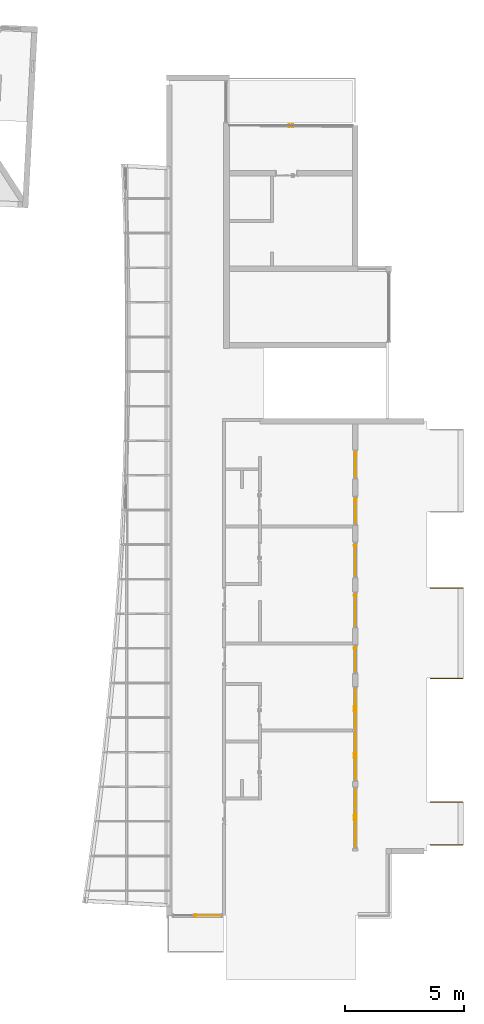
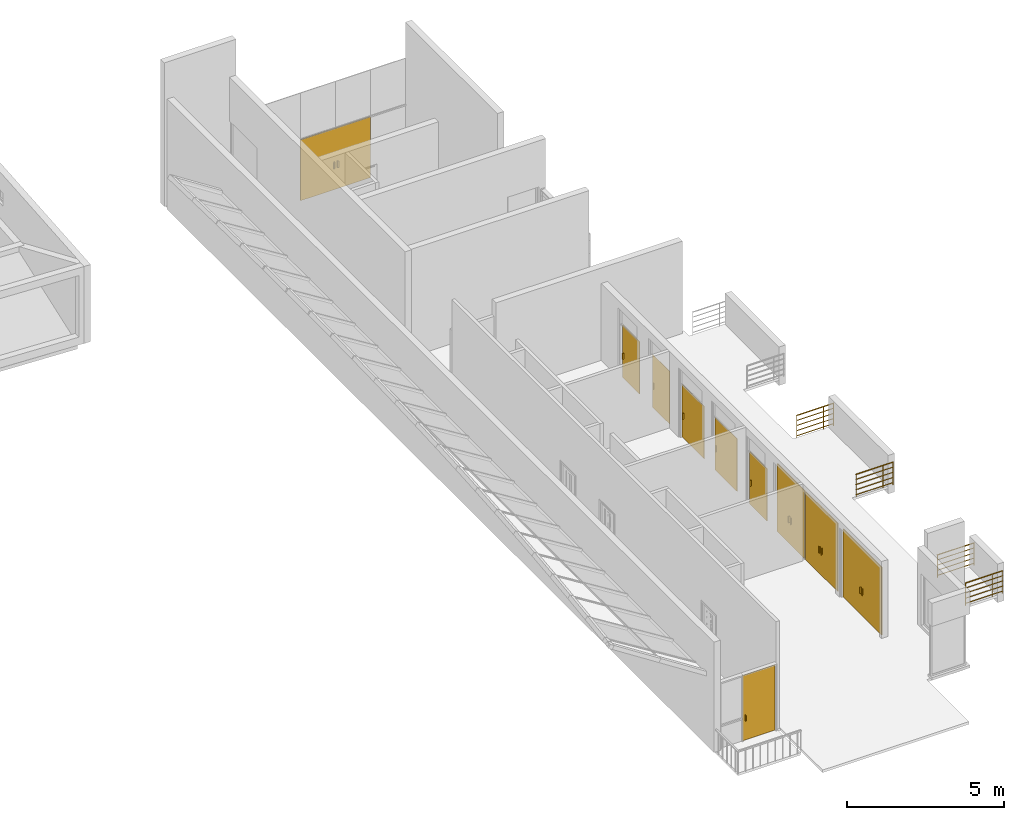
# One storey, part 30 of 33: 10 doors, 4 railings, 9 elements without a shape of their own.
"""IFC2X3 building model written with IfcOpenShell, lengths in millimetres."""

from ifc_helpers import new_model, entity, si_unit, converted_unit, derived_unit, direction, frame, frame_2d, origin, origin_2d_with_axis, place, context, subcontext, project, spatial, polyline, rectangle, circle, outline, extrude, source, transform, mapped, material, material_list, type_object, type_shapes, element, aggregate, save


model = new_model("IFC2X3")

# Units and contexts
model_context = context("Model", 3, precision=0.01, world=origin(), true_north=direction((6.12303176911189e-17, 1.0)))
body_context = subcontext(model_context, "Body", "Model", "MODEL_VIEW")
ifc_project = project(units=[si_unit("LENGTHUNIT", "METRE", prefix="MILLI"), si_unit("AREAUNIT", "SQUARE_METRE"), si_unit("VOLUMEUNIT", "CUBIC_METRE"), converted_unit("PLANEANGLEUNIT", "DEGREE", entity("IfcRatioMeasure", 0.0174532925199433), si_unit("PLANEANGLEUNIT", "RADIAN"), dimensions=[0, 0, 0, 0, 0, 0, 0]), si_unit("MASSUNIT", "GRAM", prefix="KILO"), derived_unit("MASSDENSITYUNIT", [(si_unit("MASSUNIT", "GRAM", prefix="KILO"), 1), (si_unit("LENGTHUNIT", "METRE"), -3)]), si_unit("TIMEUNIT", "SECOND"), si_unit("FREQUENCYUNIT", "HERTZ"), si_unit("THERMODYNAMICTEMPERATUREUNIT", "DEGREE_CELSIUS"), derived_unit("THERMALTRANSMITTANCEUNIT", [(si_unit("MASSUNIT", "GRAM", prefix="KILO"), 1), (si_unit("THERMODYNAMICTEMPERATUREUNIT", "KELVIN"), -1), (si_unit("TIMEUNIT", "SECOND"), -3)]), derived_unit("VOLUMETRICFLOWRATEUNIT", [(si_unit("LENGTHUNIT", "METRE"), 3), (si_unit("TIMEUNIT", "SECOND"), -1)]), si_unit("ELECTRICCURRENTUNIT", "AMPERE"), si_unit("ELECTRICVOLTAGEUNIT", "VOLT"), si_unit("POWERUNIT", "WATT"), si_unit("FORCEUNIT", "NEWTON", prefix="KILO"), si_unit("ILLUMINANCEUNIT", "LUX"), si_unit("LUMINOUSFLUXUNIT", "LUMEN"), si_unit("LUMINOUSINTENSITYUNIT", "CANDELA"), derived_unit("USERDEFINED", [(si_unit("MASSUNIT", "GRAM", prefix="KILO"), -1), (si_unit("LENGTHUNIT", "METRE"), -2), (si_unit("TIMEUNIT", "SECOND"), 3), (si_unit("LUMINOUSFLUXUNIT", "LUMEN"), 1)]), derived_unit("LINEARVELOCITYUNIT", [(si_unit("LENGTHUNIT", "METRE"), 1), (si_unit("TIMEUNIT", "SECOND"), -1)]), si_unit("PRESSUREUNIT", "PASCAL"), derived_unit("USERDEFINED", [(si_unit("LENGTHUNIT", "METRE"), -2), (si_unit("MASSUNIT", "GRAM", prefix="KILO"), 1), (si_unit("TIMEUNIT", "SECOND"), -2)])], contexts=[model_context])

# Site, building, storey
site_placement = place(None, origin())
site = spatial("IfcSite", under=ifc_project, at=site_placement, Name="表面", CompositionType="ELEMENT")
building_placement = place(site_placement, origin())
building = spatial("IfcBuilding", under=site, at=building_placement, CompositionType="ELEMENT")
storey_placement = place(building_placement, frame((0.0, 0.0, 6000.0)))
storey = spatial("IfcBuildingStorey", under=building, at=storey_placement, Name="3F", CompositionType="ELEMENT", Elevation=6000.00000000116)

# Curtain wall, doors
curtain_wall_type_1 = type_object("IfcCurtainWallType", Name="幕墙:幕墙 2", PredefinedType="NOTDEFINED")
curtain_wall_1_placement = place(storey_placement, frame((0.0, 0.0, -6000.0)))
curtain_wall_1 = element("IfcCurtainWall", 1, at=curtain_wall_1_placement, inside=storey, type_object=curtain_wall_type_1, Name="幕墙:幕墙 2", ObjectType="幕墙:幕墙 2")
ifc_material_1 = material(Name="金属 - 铝")
ifc_material_2 = material(Name="玻璃")
ifc_material_list_1 = material_list([ifc_material_1, ifc_material_2])
ifc_material_list_2 = material_list([ifc_material_1, ifc_material_2])
door_style_1 = type_object("IfcDoorStyle", Name="幕墙双开玻璃门 1800/2100", ConstructionType="NOTDEFINED", OperationType="DOUBLE_DOOR_SINGLE_SWING", ParameterTakesPrecedence=False, Sizeable=False, material=ifc_material_list_2)
shared_shape_1 = source(origin(), body_context, "Body", "SweptSolid", [
    extrude(outline(polyline([(-15.4000000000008, -16.933333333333), (24.4500000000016, -16.933333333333), (24.4500000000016, -10.583333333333), (-9.05000000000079, -10.583333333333), (-9.05000000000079, 27.5166666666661), (-15.4000000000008, 27.5166666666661), (-15.4000000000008, -16.933333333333)])), frame((67.7333333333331, 39.4500000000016, 850.0), z_axis=(0.0, 0.0, 1.0), x_axis=(0.0, -1.0, 0.0)), (0.0, 0.0, 1.0), 249.999999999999),
    extrude(outline(polyline([(-16.933333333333, -15.4000000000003), (27.516666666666, -15.4000000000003), (27.516666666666, -9.05000000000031), (-10.583333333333, -9.05000000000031), (-10.583333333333, 24.4500000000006), (-16.933333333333, 24.4500000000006), (-16.933333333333, -15.4000000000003)])), frame((-67.7333333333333, 39.4500000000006, 850.0), z_axis=(0.0, 0.0, 1.0), x_axis=(-1.0, 0.0, 0.0)), (0.0, 0.0, 1.0), 249.999999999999),
    extrude(outline(polyline([(-19.0500000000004, -16.9333333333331), (31.7500000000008, -16.9333333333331), (31.7500000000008, -10.5833333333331), (-12.7000000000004, -10.5833333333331), (-12.7000000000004, 27.5166666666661), (-19.0500000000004, 27.5166666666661), (-19.0500000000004, -16.9333333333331)])), frame((-67.7333333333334, -46.7500000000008, 850.0), z_axis=(0.0, 0.0, 1.0), x_axis=(0.0, 1.0, 0.0)), (0.0, 0.0, 1.0), 249.999999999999),
    extrude(outline(polyline([(-16.933333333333, -19.0500000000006), (27.516666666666, -19.0500000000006), (27.516666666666, -12.7000000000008), (-10.583333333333, -12.7000000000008), (-10.583333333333, 31.7500000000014), (-16.933333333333, 31.7500000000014), (-16.933333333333, -19.0500000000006)])), frame((67.7333333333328, -46.7500000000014, 850.0)), (0.0, 0.0, 1.0), 249.999999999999),
    extrude(rectangle(XDim=29.9999999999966, YDim=870.912500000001, at=origin_2d_with_axis()), frame((-437.04375, 0.0, 0.0), z_axis=(0.0, 0.0, 1.0), x_axis=(0.0, 1.0, 0.0)), (0.0, 0.0, 1.0), 2650.0),
    extrude(rectangle(XDim=29.9999999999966, YDim=870.912500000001, at=frame_2d((0.0, -2.8421709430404e-14), x_axis=(1.0, 0.0))), frame((437.04375, 0.0, 0.0), z_axis=(0.0, 0.0, 1.0), x_axis=(0.0, 1.0, 0.0)), (0.0, 0.0, 1.0), 2650.0),
])
type_shapes(door_style_1, [shared_shape_1])
door_1_placement = place(curtain_wall_1_placement, frame((-6630.24991264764, -20759.368426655, 6000.0), z_axis=(0.0, 0.0, 1.0), x_axis=(0.0, -1.0, 0.0)))
door_1 = element("IfcDoor", 2, at=door_1_placement, type_object=door_style_1, material=ifc_material_list_1, Name="幕墙双开玻璃门:幕墙双开玻璃门 1800/2100", ObjectType="幕墙双开玻璃门 1800/2100", OverallHeight=2651.85530434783, OverallWidth=1745.0, context=body_context, shape_type="MappedRepresentation", body=[
    mapped(shared_shape_1, transform((0.0, 0.0, 0.0), scale=1.0)),
])
ifc_material_list_3 = material_list([ifc_material_1, ifc_material_2])
ifc_material_list_4 = material_list([ifc_material_1, ifc_material_2])
door_style_2 = type_object("IfcDoorStyle", Name="幕墙双开玻璃门 1800/2100", ConstructionType="NOTDEFINED", OperationType="DOUBLE_DOOR_SINGLE_SWING", ParameterTakesPrecedence=False, Sizeable=False, material=ifc_material_list_4)
shared_shape_2 = source(origin(), body_context, "Body", "SweptSolid", [
    extrude(outline(polyline([(-15.4000000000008, -16.933333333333), (24.4500000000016, -16.933333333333), (24.4500000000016, -10.583333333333), (-9.05000000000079, -10.583333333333), (-9.05000000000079, 27.5166666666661), (-15.4000000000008, 27.5166666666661), (-15.4000000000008, -16.933333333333)])), frame((67.7333333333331, 39.4500000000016, 850.0), z_axis=(0.0, 0.0, 1.0), x_axis=(0.0, -1.0, 0.0)), (0.0, 0.0, 1.0), 249.999999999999),
    extrude(outline(polyline([(-16.933333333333, -15.4000000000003), (27.516666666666, -15.4000000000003), (27.516666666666, -9.05000000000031), (-10.583333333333, -9.05000000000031), (-10.583333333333, 24.4500000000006), (-16.933333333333, 24.4500000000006), (-16.933333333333, -15.4000000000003)])), frame((-67.7333333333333, 39.4500000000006, 850.0), z_axis=(0.0, 0.0, 1.0), x_axis=(-1.0, 0.0, 0.0)), (0.0, 0.0, 1.0), 249.999999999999),
    extrude(outline(polyline([(-19.0500000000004, -16.9333333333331), (31.7500000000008, -16.9333333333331), (31.7500000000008, -10.5833333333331), (-12.7000000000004, -10.5833333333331), (-12.7000000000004, 27.5166666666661), (-19.0500000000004, 27.5166666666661), (-19.0500000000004, -16.9333333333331)])), frame((-67.7333333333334, -46.7500000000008, 850.0), z_axis=(0.0, 0.0, 1.0), x_axis=(0.0, 1.0, 0.0)), (0.0, 0.0, 1.0), 249.999999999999),
    extrude(outline(polyline([(-16.933333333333, -19.0500000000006), (27.516666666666, -19.0500000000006), (27.516666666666, -12.7000000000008), (-10.583333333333, -12.7000000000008), (-10.583333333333, 31.7500000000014), (-16.933333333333, 31.7500000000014), (-16.933333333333, -19.0500000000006)])), frame((67.7333333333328, -46.7500000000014, 850.0)), (0.0, 0.0, 1.0), 249.999999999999),
    extrude(rectangle(XDim=29.9999999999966, YDim=1030.91250000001, at=origin_2d_with_axis()), frame((-517.043750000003, 0.0, 0.0), z_axis=(0.0, 0.0, 1.0), x_axis=(0.0, 1.0, 0.0)), (0.0, 0.0, 1.0), 2650.0),
    extrude(rectangle(XDim=29.9999999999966, YDim=1030.91250000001, at=frame_2d((0.0, -5.6843418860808e-14), x_axis=(1.0, 0.0))), frame((517.043750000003, 0.0, 0.0), z_axis=(0.0, 0.0, 1.0), x_axis=(0.0, 1.0, 0.0)), (0.0, 0.0, 1.0), 2650.0),
])
type_shapes(door_style_2, [shared_shape_2])
door_2_placement = place(curtain_wall_1_placement, frame((-6630.24991264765, -22714.368426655, 6000.0), z_axis=(0.0, 0.0, 1.0), x_axis=(0.0, -1.0, 0.0)))
door_2 = element("IfcDoor", 3, at=door_2_placement, type_object=door_style_2, material=ifc_material_list_3, Name="幕墙双开玻璃门:幕墙双开玻璃门 1800/2100", ObjectType="幕墙双开玻璃门 1800/2100", OverallHeight=2651.85530434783, OverallWidth=2065.00000000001, context=body_context, shape_type="MappedRepresentation", body=[
    mapped(shared_shape_2, transform((0.0, 0.0, 0.0), scale=1.0)),
])
aggregate(curtain_wall_1, [door_1, door_2])

# Curtain wall, door
curtain_wall_2_placement = place(storey_placement, frame((0.0, 0.0, -6000.0)))
curtain_wall_2 = element("IfcCurtainWall", 4, at=curtain_wall_2_placement, inside=storey, type_object=curtain_wall_type_1, Name="幕墙:幕墙 2", ObjectType="幕墙:幕墙 2")
ifc_material_list_5 = material_list([ifc_material_1, ifc_material_2])
ifc_material_list_6 = material_list([ifc_material_1, ifc_material_2])
door_style_3 = type_object("IfcDoorStyle", Name="幕墙双开玻璃门 1800/2100", ConstructionType="NOTDEFINED", OperationType="DOUBLE_DOOR_SINGLE_SWING", ParameterTakesPrecedence=False, Sizeable=False, material=ifc_material_list_6)
shared_shape_3 = source(origin(), body_context, "Body", "SweptSolid", [
    extrude(outline(polyline([(-15.4000000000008, -16.933333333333), (24.4500000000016, -16.933333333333), (24.4500000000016, -10.583333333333), (-9.05000000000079, -10.583333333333), (-9.05000000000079, 27.5166666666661), (-15.4000000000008, 27.5166666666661), (-15.4000000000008, -16.933333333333)])), frame((67.7333333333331, 39.4500000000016, 850.0), z_axis=(0.0, 0.0, 1.0), x_axis=(0.0, -1.0, 0.0)), (0.0, 0.0, 1.0), 249.999999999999),
    extrude(outline(polyline([(-16.933333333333, -15.4000000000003), (27.516666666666, -15.4000000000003), (27.516666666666, -9.05000000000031), (-10.583333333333, -9.05000000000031), (-10.583333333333, 24.4500000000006), (-16.933333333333, 24.4500000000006), (-16.933333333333, -15.4000000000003)])), frame((-67.7333333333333, 39.4500000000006, 850.0), z_axis=(0.0, 0.0, 1.0), x_axis=(-1.0, 0.0, 0.0)), (0.0, 0.0, 1.0), 249.999999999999),
    extrude(outline(polyline([(-19.0500000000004, -16.9333333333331), (31.7500000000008, -16.9333333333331), (31.7500000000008, -10.5833333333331), (-12.7000000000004, -10.5833333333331), (-12.7000000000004, 27.5166666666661), (-19.0500000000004, 27.5166666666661), (-19.0500000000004, -16.9333333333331)])), frame((-67.7333333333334, -46.7500000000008, 850.0), z_axis=(0.0, 0.0, 1.0), x_axis=(0.0, 1.0, 0.0)), (0.0, 0.0, 1.0), 249.999999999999),
    extrude(outline(polyline([(-16.933333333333, -19.0500000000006), (27.516666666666, -19.0500000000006), (27.516666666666, -12.7000000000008), (-10.583333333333, -12.7000000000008), (-10.583333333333, 31.7500000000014), (-16.933333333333, 31.7500000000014), (-16.933333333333, -19.0500000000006)])), frame((67.7333333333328, -46.7500000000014, 850.0)), (0.0, 0.0, 1.0), 249.999999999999),
    extrude(rectangle(XDim=29.9999999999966, YDim=1228.4125, at=origin_2d_with_axis()), frame((-615.793750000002, 0.0, 0.0), z_axis=(0.0, 0.0, 1.0), x_axis=(0.0, 1.0, 0.0)), (0.0, 0.0, 1.0), 2650.0),
    extrude(rectangle(XDim=29.9999999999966, YDim=1228.4125, at=frame_2d((0.0, 1.13686837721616e-13), x_axis=(1.0, 0.0))), frame((615.793750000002, 0.0, 0.0), z_axis=(0.0, 0.0, 1.0), x_axis=(0.0, 1.0, 0.0)), (0.0, 0.0, 1.0), 2650.0),
])
type_shapes(door_style_3, [shared_shape_3])
door_3_placement = place(curtain_wall_2_placement, frame((-6630.24991264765, -25316.868426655, 6000.0), z_axis=(0.0, 0.0, 1.0), x_axis=(0.0, -1.0, 0.0)))
door_3 = element("IfcDoor", 5, at=door_3_placement, type_object=door_style_3, material=ifc_material_list_5, Name="幕墙双开玻璃门:幕墙双开玻璃门 1800/2100", ObjectType="幕墙双开玻璃门 1800/2100", OverallHeight=2651.85530434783, OverallWidth=2460.00000000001, context=body_context, shape_type="MappedRepresentation", body=[
    mapped(shared_shape_3, transform((0.0, 0.0, 0.0), scale=1.0)),
])
aggregate(curtain_wall_2, [door_3])

curtain_wall_type_2 = type_object("IfcCurtainWallType", Name="幕墙:店面", PredefinedType="NOTDEFINED")
curtain_wall_3_placement = place(storey_placement, frame((0.0, 0.0, -6000.0)))
curtain_wall_3 = element("IfcCurtainWall", 6, at=curtain_wall_3_placement, inside=storey, type_object=curtain_wall_type_2, Name="幕墙:店面", ObjectType="幕墙:店面")
ifc_material_list_7 = material_list([ifc_material_1, ifc_material_2])
ifc_material_list_8 = material_list([ifc_material_1, ifc_material_2])
door_style_4 = type_object("IfcDoorStyle", Name="幕墙双开玻璃门 1800/2100", ConstructionType="NOTDEFINED", OperationType="DOUBLE_DOOR_SINGLE_SWING", ParameterTakesPrecedence=False, Sizeable=False, material=ifc_material_list_8)
shared_shape_4 = source(origin(), body_context, "Body", "SweptSolid", [
    extrude(outline(polyline([(-15.4000000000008, -16.933333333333), (24.4500000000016, -16.933333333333), (24.4500000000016, -10.583333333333), (-9.05000000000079, -10.583333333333), (-9.05000000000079, 27.5166666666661), (-15.4000000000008, 27.5166666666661), (-15.4000000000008, -16.933333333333)])), frame((67.7333333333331, 39.4500000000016, 850.0), z_axis=(0.0, 0.0, 1.0), x_axis=(0.0, -1.0, 0.0)), (0.0, 0.0, 1.0), 249.999999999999),
    extrude(outline(polyline([(-16.933333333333, -15.4000000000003), (27.516666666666, -15.4000000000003), (27.516666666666, -9.05000000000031), (-10.583333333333, -9.05000000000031), (-10.583333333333, 24.4500000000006), (-16.933333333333, 24.4500000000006), (-16.933333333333, -15.4000000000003)])), frame((-67.7333333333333, 39.4500000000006, 850.0), z_axis=(0.0, 0.0, 1.0), x_axis=(-1.0, 0.0, 0.0)), (0.0, 0.0, 1.0), 249.999999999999),
    extrude(outline(polyline([(-19.0500000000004, -16.9333333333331), (31.7500000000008, -16.9333333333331), (31.7500000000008, -10.5833333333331), (-12.7000000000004, -10.5833333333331), (-12.7000000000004, 27.5166666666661), (-19.0500000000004, 27.5166666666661), (-19.0500000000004, -16.9333333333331)])), frame((-67.7333333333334, -46.7500000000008, 850.0), z_axis=(0.0, 0.0, 1.0), x_axis=(0.0, 1.0, 0.0)), (0.0, 0.0, 1.0), 249.999999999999),
    extrude(outline(polyline([(-16.933333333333, -19.0500000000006), (27.516666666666, -19.0500000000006), (27.516666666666, -12.7000000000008), (-10.583333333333, -12.7000000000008), (-10.583333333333, 31.7500000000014), (-16.933333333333, 31.7500000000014), (-16.933333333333, -19.0500000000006)])), frame((67.7333333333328, -46.7500000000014, 850.0)), (0.0, 0.0, 1.0), 249.999999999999),
    extrude(rectangle(XDim=29.9999999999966, YDim=1288.41250000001, at=origin_2d_with_axis()), frame((-645.793750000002, 0.0, 0.0), z_axis=(0.0, 0.0, 1.0), x_axis=(0.0, 1.0, 0.0)), (0.0, 0.0, 1.0), 2375.0),
    extrude(rectangle(XDim=29.9999999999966, YDim=1288.41250000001, at=frame_2d((0.0, 1.13686837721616e-13), x_axis=(1.0, 0.0))), frame((645.793750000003, 0.0, 0.0), z_axis=(0.0, 0.0, 1.0), x_axis=(0.0, 1.0, 0.0)), (0.0, 0.0, 1.0), 2375.0),
])
type_shapes(door_style_4, [shared_shape_4])
door_4_placement = place(curtain_wall_3_placement, frame((-9330.24991264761, 3683.13157334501, 6000.0)))
door_4 = element("IfcDoor", 7, at=door_4_placement, type_object=door_style_4, material=ifc_material_list_7, Name="幕墙双开玻璃门:幕墙双开玻璃门 1800/2100", ObjectType="幕墙双开玻璃门 1800/2100", OverallHeight=2376.85530434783, OverallWidth=2580.00000000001, context=body_context, shape_type="MappedRepresentation", body=[
    mapped(shared_shape_4, transform((0.0, 0.0, 0.0), scale=1.0)),
])
aggregate(curtain_wall_3, [door_4])

curtain_wall_type_3 = type_object("IfcCurtainWallType", Name="幕墙:幕墙 4", PredefinedType="NOTDEFINED")
curtain_wall_4_placement = place(storey_placement, frame((0.0, 0.0, -6000.0)))
curtain_wall_4 = element("IfcCurtainWall", 8, at=curtain_wall_4_placement, inside=storey, type_object=curtain_wall_type_3, Name="幕墙:幕墙 4", ObjectType="幕墙:幕墙 4")
ifc_material_list_9 = material_list([ifc_material_1, ifc_material_2])
ifc_material_list_10 = material_list([ifc_material_1, ifc_material_2])
door_style_5 = type_object("IfcDoorStyle", Name="幕墙单开玻璃门 900/2100", ConstructionType="NOTDEFINED", OperationType="SINGLE_SWING_RIGHT", ParameterTakesPrecedence=False, Sizeable=False, material=ifc_material_list_10)
shared_shape_5 = source(origin(), body_context, "Body", "SweptSolid", [
    extrude(rectangle(XDim=25.4, YDim=50.8, at=frame_2d((-6.75015598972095e-14, -1.77635683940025e-15), x_axis=(1.0, 0.0))), frame((-461.1, 38.0999999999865, 762.0), z_axis=(0.0, 0.0, 1.0), x_axis=(-1.0, 0.0, 0.0)), (0.0, 0.0, 1.0), 228.6),
    extrude(rectangle(XDim=25.3999999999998, YDim=50.8, at=frame_2d((-6.75015598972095e-14, -3.5527136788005e-15), x_axis=(1.0, 0.0))), frame((-461.100000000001, -25.4000000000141, 762.0)), (0.0, 0.0, 1.0), 228.6),
    extrude(rectangle(XDim=12.7000000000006, YDim=1100.0, at=origin_2d_with_axis()), frame((0.0, 6.34999999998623, 0.0), z_axis=(0.0, 0.0, 1.0), x_axis=(0.0, 1.0, 0.0)), (0.0, 0.0, 1.0), 2050.0),
])
type_shapes(door_style_5, [shared_shape_5])
door_5_placement = place(curtain_wall_4_placement, frame((-6630.24991264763, -12456.868426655, 6000.0), z_axis=(0.0, 0.0, 1.0), x_axis=(0.0, -1.0, 0.0)))
door_5 = element("IfcDoor", 9, at=door_5_placement, type_object=door_style_5, material=ifc_material_list_9, Name="幕墙单开玻璃门:幕墙单开玻璃门 900/2100", ObjectType="幕墙单开玻璃门 900/2100", OverallHeight=2050.0, OverallWidth=1100.0, context=body_context, shape_type="MappedRepresentation", body=[
    mapped(shared_shape_5, transform((0.0, 0.0, 0.0), scale=1.0)),
])
aggregate(curtain_wall_4, [door_5])

curtain_wall_5_placement = place(storey_placement, frame((0.0, 0.0, -6000.0)))
curtain_wall_5 = element("IfcCurtainWall", 10, at=curtain_wall_5_placement, inside=storey, type_object=curtain_wall_type_3, Name="幕墙:幕墙 4", ObjectType="幕墙:幕墙 4")
ifc_material_list_11 = material_list([ifc_material_1, ifc_material_2])
door_6_placement = place(curtain_wall_5_placement, frame((-6630.24991264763, -10516.868426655, 6000.0), z_axis=(0.0, 0.0, 1.0), x_axis=(0.0, -1.0, 0.0)))
door_6 = element("IfcDoor", 11, at=door_6_placement, type_object=door_style_5, material=ifc_material_list_11, Name="幕墙单开玻璃门:幕墙单开玻璃门 900/2100", ObjectType="幕墙单开玻璃门 900/2100", OverallHeight=2050.0, OverallWidth=1100.0, context=body_context, shape_type="MappedRepresentation", body=[
    mapped(shared_shape_5, transform((0.0, 0.0, 0.0), scale=1.0)),
])
aggregate(curtain_wall_5, [door_6])

curtain_wall_6_placement = place(storey_placement, frame((0.0, 0.0, -6000.0)))
curtain_wall_6 = element("IfcCurtainWall", 12, at=curtain_wall_6_placement, inside=storey, type_object=curtain_wall_type_3, Name="幕墙:幕墙 4", ObjectType="幕墙:幕墙 4")
ifc_material_list_12 = material_list([ifc_material_1, ifc_material_2])
ifc_material_list_13 = material_list([ifc_material_1, ifc_material_2])
door_style_6 = type_object("IfcDoorStyle", Name="幕墙单开玻璃门 900/2100", ConstructionType="NOTDEFINED", OperationType="SINGLE_SWING_LEFT", ParameterTakesPrecedence=False, Sizeable=False, material=ifc_material_list_13)
shared_shape_6 = source(origin(), body_context, "Body", "SweptSolid", [
    extrude(rectangle(XDim=50.8, YDim=25.4, at=frame_2d((3.5527136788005e-15, 6.75015598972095e-14), x_axis=(1.0, 0.0))), frame((-611.100000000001, -38.0999999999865, 762.0), z_axis=(0.0, 0.0, 1.0), x_axis=(0.0, 1.0, 0.0)), (0.0, 0.0, 1.0), 228.6),
    extrude(rectangle(XDim=50.8, YDim=25.3999999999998, at=frame_2d((0.0, -6.75015598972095e-14), x_axis=(1.0, 0.0))), frame((-611.100000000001, 25.4000000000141, 762.0), z_axis=(0.0, 0.0, 1.0), x_axis=(0.0, -1.0, 0.0)), (0.0, 0.0, 1.0), 228.6),
    extrude(rectangle(XDim=1400.0, YDim=12.7000000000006, at=origin_2d_with_axis()), frame((0.0, -6.34999999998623, 0.0), z_axis=(0.0, 0.0, 1.0), x_axis=(-1.0, 0.0, 0.0)), (0.0, 0.0, 1.0), 2050.0),
])
type_shapes(door_style_6, [shared_shape_6])
door_7_placement = place(curtain_wall_6_placement, frame((-6630.24991264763, -14516.868426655, 6000.0), z_axis=(0.0, 0.0, 1.0), x_axis=(0.0, -1.0, 0.0)))
door_7 = element("IfcDoor", 13, at=door_7_placement, type_object=door_style_6, material=ifc_material_list_12, Name="幕墙单开玻璃门:幕墙单开玻璃门 900/2100", ObjectType="幕墙单开玻璃门 900/2100", OverallHeight=2050.0, OverallWidth=1400.0, context=body_context, shape_type="MappedRepresentation", body=[
    mapped(shared_shape_6, transform((0.0, 0.0, 0.0), scale=1.0)),
])
aggregate(curtain_wall_6, [door_7])

curtain_wall_7_placement = place(storey_placement, frame((0.0, 0.0, -6000.0)))
curtain_wall_7 = element("IfcCurtainWall", 14, at=curtain_wall_7_placement, inside=storey, type_object=curtain_wall_type_3, Name="幕墙:幕墙 4", ObjectType="幕墙:幕墙 4")
ifc_material_list_14 = material_list([ifc_material_1, ifc_material_2])
door_8_placement = place(curtain_wall_7_placement, frame((-6630.24991264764, -16616.868426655, 6000.0), z_axis=(0.0, 0.0, 1.0), x_axis=(0.0, -1.0, 0.0)))
door_8 = element("IfcDoor", 15, at=door_8_placement, type_object=door_style_6, material=ifc_material_list_14, Name="幕墙单开玻璃门:幕墙单开玻璃门 900/2100", ObjectType="幕墙单开玻璃门 900/2100", OverallHeight=2050.0, OverallWidth=1400.0, context=body_context, shape_type="MappedRepresentation", body=[
    mapped(shared_shape_6, transform((0.0, 0.0, 0.0), scale=1.0)),
])
aggregate(curtain_wall_7, [door_8])

curtain_wall_8_placement = place(storey_placement, frame((0.0, 0.0, -6000.0)))
curtain_wall_8 = element("IfcCurtainWall", 16, at=curtain_wall_8_placement, inside=storey, type_object=curtain_wall_type_3, Name="幕墙:幕墙 4", ObjectType="幕墙:幕墙 4")
ifc_material_list_15 = material_list([ifc_material_1, ifc_material_2])
ifc_material_list_16 = material_list([ifc_material_1, ifc_material_2])
door_style_7 = type_object("IfcDoorStyle", Name="幕墙单开玻璃门 900/2100", ConstructionType="NOTDEFINED", OperationType="SINGLE_SWING_LEFT", ParameterTakesPrecedence=False, Sizeable=False, material=ifc_material_list_16)
shared_shape_7 = source(origin(), body_context, "Body", "SweptSolid", [
    extrude(rectangle(XDim=50.8, YDim=25.4, at=frame_2d((3.5527136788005e-15, 0.0), x_axis=(1.0, 0.0))), frame((-461.1, -38.0999999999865, 762.0), z_axis=(0.0, 0.0, 1.0), x_axis=(0.0, 1.0, 0.0)), (0.0, 0.0, 1.0), 228.6),
    extrude(rectangle(XDim=50.8, YDim=25.3999999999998, at=origin_2d_with_axis()), frame((-461.100000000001, 25.4000000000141, 762.0), z_axis=(0.0, 0.0, 1.0), x_axis=(0.0, -1.0, 0.0)), (0.0, 0.0, 1.0), 228.6),
    extrude(rectangle(XDim=1100.0, YDim=12.7000000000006, at=origin_2d_with_axis()), frame((0.0, -6.34999999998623, 0.0), z_axis=(0.0, 0.0, 1.0), x_axis=(-1.0, 0.0, 0.0)), (0.0, 0.0, 1.0), 2050.0),
])
type_shapes(door_style_7, [shared_shape_7])
door_9_placement = place(curtain_wall_8_placement, frame((-6630.24991264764, -18676.868426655, 6000.0), z_axis=(0.0, 0.0, 1.0), x_axis=(0.0, -1.0, 0.0)))
door_9 = element("IfcDoor", 17, at=door_9_placement, type_object=door_style_7, material=ifc_material_list_15, Name="幕墙单开玻璃门:幕墙单开玻璃门 900/2100", ObjectType="幕墙单开玻璃门 900/2100", OverallHeight=2050.0, OverallWidth=1100.0, context=body_context, shape_type="MappedRepresentation", body=[
    mapped(shared_shape_7, transform((0.0, 0.0, 0.0), scale=1.0)),
])
aggregate(curtain_wall_8, [door_9])

curtain_wall_9_placement = place(storey_placement, frame((0.0, 0.0, -6000.0)))
curtain_wall_9 = element("IfcCurtainWall", 18, at=curtain_wall_9_placement, inside=storey, type_object=curtain_wall_type_1, Name="幕墙:幕墙 2", ObjectType="幕墙:幕墙 2")
ifc_material_list_17 = material_list([ifc_material_1, ifc_material_2])
ifc_material_list_18 = material_list([ifc_material_1, ifc_material_2])
door_style_8 = type_object("IfcDoorStyle", Name="幕墙单开玻璃门 900/2100", ConstructionType="NOTDEFINED", OperationType="SINGLE_SWING_LEFT", ParameterTakesPrecedence=False, Sizeable=False, material=ifc_material_list_18)
shared_shape_8 = source(origin(), body_context, "Body", "SweptSolid", [
    extrude(rectangle(XDim=50.8, YDim=25.4, at=frame_2d((3.5527136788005e-15, 0.0), x_axis=(1.0, 0.0))), frame((-503.6, -38.0999999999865, 762.0), z_axis=(0.0, 0.0, 1.0), x_axis=(0.0, 1.0, 0.0)), (0.0, 0.0, 1.0), 228.6),
    extrude(rectangle(XDim=50.8, YDim=25.3999999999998, at=origin_2d_with_axis()), frame((-503.600000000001, 25.4000000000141, 762.0), z_axis=(0.0, 0.0, 1.0), x_axis=(0.0, -1.0, 0.0)), (0.0, 0.0, 1.0), 228.6),
    extrude(rectangle(XDim=1185.0, YDim=12.7000000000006, at=origin_2d_with_axis()), frame((0.0, -6.34999999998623, 0.0), z_axis=(0.0, 0.0, 1.0), x_axis=(-1.0, 0.0, 0.0)), (0.0, 0.0, 1.0), 2550.0),
])
type_shapes(door_style_8, [shared_shape_8])
door_10_placement = place(curtain_wall_9_placement, frame((-12832.7499126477, -29416.868426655, 6000.0)))
door_10 = element("IfcDoor", 19, at=door_10_placement, type_object=door_style_8, material=ifc_material_list_17, Name="幕墙单开玻璃门:幕墙单开玻璃门 900/2100", ObjectType="幕墙单开玻璃门 900/2100", OverallHeight=2550.0, OverallWidth=1185.0, context=body_context, shape_type="MappedRepresentation", body=[
    mapped(shared_shape_8, transform((0.0, 0.0, 0.0), scale=1.0)),
])
aggregate(curtain_wall_9, [door_10])

# Railings
ifc_material_3 = material(Name="不锈钢")
railing_1_placement = place(storey_placement, origin())
element("IfcRailing", 20, at=railing_1_placement, inside=storey, material=ifc_material_3, Name="栏杆扶手:900mm 圆管", ObjectType="栏杆扶手:900mm 圆管", PredefinedType="NOTDEFINED", context=body_context, shape_type="SweptSolid", body=[
    extrude(circle(Radius=12.5, at=origin_2d_with_axis()), frame((-2510.24991264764, -15690.7457415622, 0.0), z_axis=(0.0, 0.0, 1.0), x_axis=(0.0, 1.0, 0.0)), (0.0, 0.0, 1.0), 859.999999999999),
    extrude(circle(Radius=12.5, at=origin_2d_with_axis()), frame((-2142.74991264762, -15690.7457415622, 0.0), z_axis=(0.0, 0.0, 1.0), x_axis=(0.0, 1.0, 0.0)), (0.0, 0.0, 1.0), 859.999999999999),
    extrude(circle(Radius=12.5, at=origin_2d_with_axis()), frame((-3497.74991264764, -15690.7457415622, 0.0), z_axis=(0.0, 0.0, 1.0), x_axis=(0.0, 1.0, 0.0)), (0.0, 0.0, 1.0), 859.999999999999),
    extrude(circle(Radius=20.0, at=origin_2d_with_axis()), frame((-3510.24991264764, -15690.7457415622, 880.0), z_axis=(1.0, 0.0, 0.0), x_axis=(0.0, -1.0, 0.0)), (0.0, 0.0, 1.0), 1380.00000000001),
    extrude(circle(Radius=15.0, at=origin_2d_with_axis()), frame((-3510.24991264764, -15690.7457415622, 685.0), z_axis=(1.0, 0.0, 0.0), x_axis=(0.0, -1.0, 0.0)), (0.0, 0.0, 1.0), 1380.00000000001),
    extrude(circle(Radius=15.0, at=origin_2d_with_axis()), frame((-3510.24991264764, -15690.7457415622, 485.0), z_axis=(1.0, 0.0, 0.0), x_axis=(0.0, -1.0, 0.0)), (0.0, 0.0, 1.0), 1380.00000000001),
    extrude(circle(Radius=15.0, at=origin_2d_with_axis()), frame((-3510.24991264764, -15690.7457415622, 285.0), z_axis=(1.0, 0.0, 0.0), x_axis=(0.0, -1.0, 0.0)), (0.0, 0.0, 1.0), 1380.00000000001),
    extrude(circle(Radius=15.0, at=origin_2d_with_axis()), frame((-3510.24991264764, -15690.7457415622, 85.0), z_axis=(1.0, 0.0, 0.0), x_axis=(0.0, -1.0, 0.0)), (0.0, 0.0, 1.0), 1380.00000000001),
])
railing_2_placement = place(storey_placement, origin())
element("IfcRailing", 21, at=railing_2_placement, inside=storey, material=ifc_material_3, Name="栏杆扶手:900mm 圆管", ObjectType="栏杆扶手:900mm 圆管", PredefinedType="NOTDEFINED", context=body_context, shape_type="SweptSolid", body=[
    extrude(circle(Radius=12.5, at=origin_2d_with_axis()), frame((-2510.24991264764, -19480.7457415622, 0.0), z_axis=(0.0, 0.0, 1.0), x_axis=(0.0, 1.0, 0.0)), (0.0, 0.0, 1.0), 859.999999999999),
    extrude(circle(Radius=12.5, at=origin_2d_with_axis()), frame((-2142.74991264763, -19480.7457415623, 0.0), z_axis=(0.0, 0.0, 1.0), x_axis=(0.0, 1.0, 0.0)), (0.0, 0.0, 1.0), 859.999999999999),
    extrude(circle(Radius=12.5, at=origin_2d_with_axis()), frame((-3497.74991264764, -19480.7457415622, 0.0), z_axis=(0.0, 0.0, 1.0), x_axis=(0.0, 1.0, 0.0)), (0.0, 0.0, 1.0), 859.999999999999),
    extrude(circle(Radius=20.0, at=origin_2d_with_axis()), frame((-3510.24991264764, -19480.7457415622, 880.0), z_axis=(1.0, 0.0, 0.0), x_axis=(0.0, -1.0, 0.0)), (0.0, 0.0, 1.0), 1380.00000000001),
    extrude(circle(Radius=15.0, at=origin_2d_with_axis()), frame((-3510.24991264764, -19480.7457415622, 685.0), z_axis=(1.0, 0.0, 0.0), x_axis=(0.0, -1.0, 0.0)), (0.0, 0.0, 1.0), 1380.00000000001),
    extrude(circle(Radius=15.0, at=origin_2d_with_axis()), frame((-3510.24991264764, -19480.7457415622, 485.0), z_axis=(1.0, 0.0, 0.0), x_axis=(0.0, -1.0, 0.0)), (0.0, 0.0, 1.0), 1380.00000000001),
    extrude(circle(Radius=15.0, at=origin_2d_with_axis()), frame((-3510.24991264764, -19480.7457415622, 285.0), z_axis=(1.0, 0.0, 0.0), x_axis=(0.0, -1.0, 0.0)), (0.0, 0.0, 1.0), 1380.00000000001),
    extrude(circle(Radius=15.0, at=origin_2d_with_axis()), frame((-3510.24991264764, -19480.7457415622, 85.0), z_axis=(1.0, 0.0, 0.0), x_axis=(0.0, -1.0, 0.0)), (0.0, 0.0, 1.0), 1380.00000000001),
])
railing_3_placement = place(storey_placement, origin())
element("IfcRailing", 22, at=railing_3_placement, inside=storey, material=ifc_material_3, Name="栏杆扶手:900mm 圆管", ObjectType="栏杆扶手:900mm 圆管", PredefinedType="NOTDEFINED", context=body_context, shape_type="SweptSolid", body=[
    extrude(circle(Radius=12.5, at=origin_2d_with_axis()), frame((-2510.24991264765, -24665.7457415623, 0.0), z_axis=(0.0, 0.0, 1.0), x_axis=(0.0, 1.0, 0.0)), (0.0, 0.0, 1.0), 859.999999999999),
    extrude(circle(Radius=12.5, at=origin_2d_with_axis()), frame((-2142.74991264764, -24665.7457415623, 0.0), z_axis=(0.0, 0.0, 1.0), x_axis=(0.0, 1.0, 0.0)), (0.0, 0.0, 1.0), 859.999999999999),
    extrude(circle(Radius=12.5, at=origin_2d_with_axis()), frame((-3497.74991264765, -24665.7457415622, 0.0), z_axis=(0.0, 0.0, 1.0), x_axis=(0.0, 1.0, 0.0)), (0.0, 0.0, 1.0), 859.999999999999),
    extrude(circle(Radius=20.0, at=origin_2d_with_axis()), frame((-3510.24991264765, -24665.7457415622, 880.0), z_axis=(1.0, 0.0, 0.0), x_axis=(0.0, -1.0, 0.0)), (0.0, 0.0, 1.0), 1380.00000000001),
    extrude(circle(Radius=15.0, at=origin_2d_with_axis()), frame((-3510.24991264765, -24665.7457415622, 685.0), z_axis=(1.0, 0.0, 0.0), x_axis=(0.0, -1.0, 0.0)), (0.0, 0.0, 1.0), 1380.00000000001),
    extrude(circle(Radius=15.0, at=origin_2d_with_axis()), frame((-3510.24991264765, -24665.7457415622, 485.0), z_axis=(1.0, 0.0, 0.0), x_axis=(0.0, -1.0, 0.0)), (0.0, 0.0, 1.0), 1380.00000000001),
    extrude(circle(Radius=15.0, at=origin_2d_with_axis()), frame((-3510.24991264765, -24665.7457415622, 285.0), z_axis=(1.0, 0.0, 0.0), x_axis=(0.0, -1.0, 0.0)), (0.0, 0.0, 1.0), 1380.00000000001),
    extrude(circle(Radius=15.0, at=origin_2d_with_axis()), frame((-3510.24991264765, -24665.7457415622, 85.0), z_axis=(1.0, 0.0, 0.0), x_axis=(0.0, -1.0, 0.0)), (0.0, 0.0, 1.0), 1380.00000000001),
])
railing_4_placement = place(storey_placement, origin())
element("IfcRailing", 23, at=railing_4_placement, inside=storey, material=ifc_material_3, Name="栏杆扶手:900mm 圆管", ObjectType="栏杆扶手:900mm 圆管", PredefinedType="NOTDEFINED", context=body_context, shape_type="SweptSolid", body=[
    extrude(circle(Radius=12.5, at=origin_2d_with_axis()), frame((-2510.24991264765, -26465.7457415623, 0.0), z_axis=(0.0, 0.0, 1.0), x_axis=(0.0, 1.0, 0.0)), (0.0, 0.0, 1.0), 859.999999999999),
    extrude(circle(Radius=12.5, at=origin_2d_with_axis()), frame((-2142.74991264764, -26465.7457415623, 0.0), z_axis=(0.0, 0.0, 1.0), x_axis=(0.0, 1.0, 0.0)), (0.0, 0.0, 1.0), 859.999999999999),
    extrude(circle(Radius=12.5, at=origin_2d_with_axis()), frame((-3497.74991264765, -26465.7457415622, 0.0), z_axis=(0.0, 0.0, 1.0), x_axis=(0.0, 1.0, 0.0)), (0.0, 0.0, 1.0), 859.999999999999),
    extrude(circle(Radius=20.0, at=origin_2d_with_axis()), frame((-3510.24991264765, -26465.7457415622, 880.0), z_axis=(1.0, 0.0, 0.0), x_axis=(0.0, -1.0, 0.0)), (0.0, 0.0, 1.0), 1380.00000000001),
    extrude(circle(Radius=15.0, at=origin_2d_with_axis()), frame((-3510.24991264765, -26465.7457415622, 685.0), z_axis=(1.0, 0.0, 0.0), x_axis=(0.0, -1.0, 0.0)), (0.0, 0.0, 1.0), 1380.00000000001),
    extrude(circle(Radius=15.0, at=origin_2d_with_axis()), frame((-3510.24991264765, -26465.7457415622, 485.0), z_axis=(1.0, 0.0, 0.0), x_axis=(0.0, -1.0, 0.0)), (0.0, 0.0, 1.0), 1380.00000000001),
    extrude(circle(Radius=15.0, at=origin_2d_with_axis()), frame((-3510.24991264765, -26465.7457415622, 285.0), z_axis=(1.0, 0.0, 0.0), x_axis=(0.0, -1.0, 0.0)), (0.0, 0.0, 1.0), 1380.00000000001),
    extrude(circle(Radius=15.0, at=origin_2d_with_axis()), frame((-3510.24991264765, -26465.7457415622, 85.0), z_axis=(1.0, 0.0, 0.0), x_axis=(0.0, -1.0, 0.0)), (0.0, 0.0, 1.0), 1380.00000000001),
])

save(model, "model.ifc")
